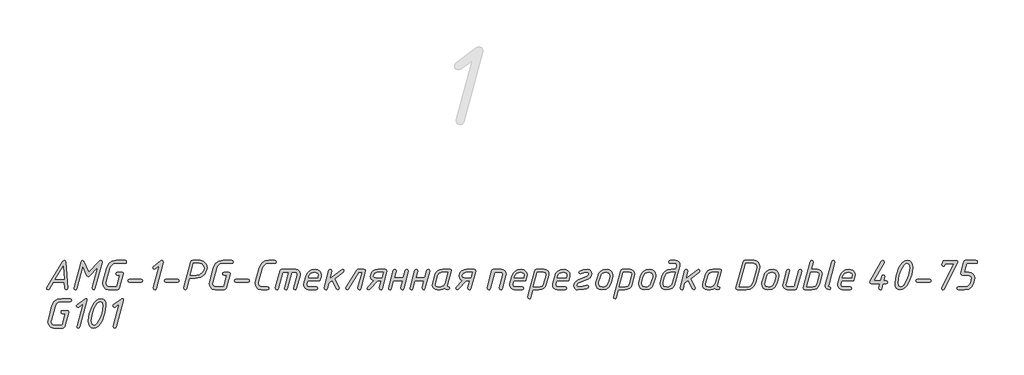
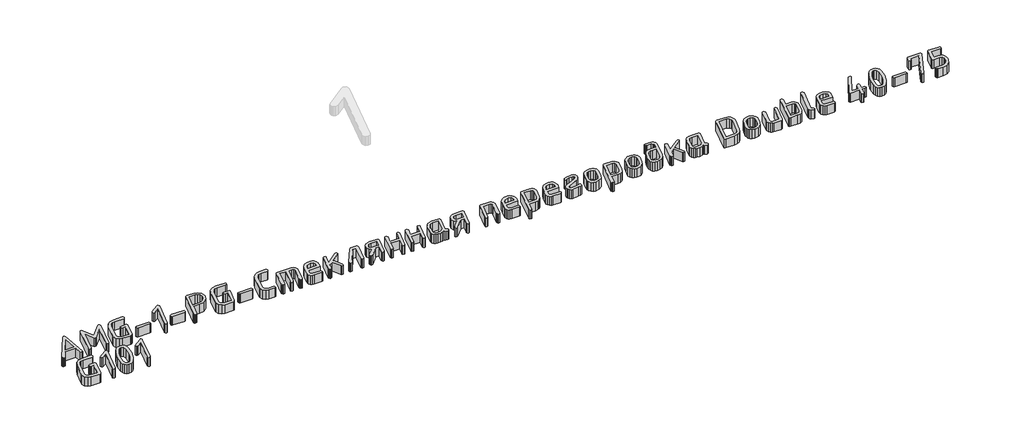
# One storey, part 20 of 22: 1 proxy.
"""IFC4 building model written with IfcOpenShell, lengths in millimetres."""

from ifc_helpers import new_model, si_unit, origin, origin_with_axes, place, context, project, spatial, polyline, outline, extrude, element, save

model = new_model("IFC4")

# Units and contexts
model_context = context("Model", 3, world=origin())
ifc_project = project(units=[si_unit("LENGTHUNIT", "METRE", prefix="MILLI")], contexts=[model_context])

# Site, building, storey
site = spatial("IfcSite", under=ifc_project)
building = spatial("IfcBuilding", under=site)
storey = spatial("IfcBuildingStorey", under=building, Name="Уровень 1", Elevation=0.0)

# Proxy
placement = place(None, origin())
element("IfcBuildingElementProxy", 1, Name="30", ObjectType="30", at=placement, inside=storey, context=model_context, shape_type="SweptSolid", body=[
    extrude(outline(polyline([(-36154.4219264, 304.7886375), (-36210.5539274, 304.7886375), (-36231.3287604, 270.1505985), (-36237.7210168, 266.4350995), (-36243.0345798, 268.6723892), (-36245.1919664, 273.9859523), (-36244.0733215, 277.9811125), (-36161.4534084, 413.7366563), (-36154.9812489, 417.2923489), (-36149.6277342, 415.5544542), (-36147.4703477, 410.3407702), (-36137.0429795, 273.7462427), (-36138.9406806, 268.2628853), (-36144.6337839, 266.4350995), (-36149.9573349, 268.2029579), (-36152.0248303, 273.506533), (-36154.4219264, 304.7886375)]), holes=[polyline([(-36155.5405713, 320.1300527), (-36160.6543764, 386.6095185), (-36201.3251073, 320.1300527), (-36155.5405713, 320.1300527)])]), origin_with_axes(), (0.0, 0.0, 1.0), 50.0),
    extrude(outline(polyline([(-36059.3371135, 386.6494701), (-36089.9000891, 272.0283238), (-36092.4370158, 267.8334055), (-36097.0913775, 266.4350995), (-36102.3649889, 268.6723892), (-36104.6821818, 273.7462427), (-36104.362569, 276.023484), (-36068.0865143, 411.6991246), (-36065.5595755, 415.8940428), (-36060.9351776, 417.2923489), (-36053.9036956, 412.7378663), (-36029.8128796, 355.4472689), (-35973.0816046, 414.8952528), (-35967.7680415, 417.2923489), (-35962.1348656, 415.4345994), (-35960.2571403, 409.8613509), (-35960.49685, 407.7039644), (-35996.732953, 272.0283238), (-35999.3198193, 267.8334055), (-36003.8842898, 266.4350995), (-36009.1778771, 268.6723892), (-36011.5150458, 273.7462427), (-36011.1554814, 276.023484), (-35982.5101827, 383.3334871), (-36027.0961706, 336.8298223), (-36032.4097337, 334.5925326), (-36039.2414576, 339.1070636), (-36059.3371135, 386.6494701)])), origin_with_axes(), (0.0, 0.0, 1.0), 50.0),
    extrude(outline(polyline([(-35842.6795754, 401.9509337), (-35891.3406268, 401.9509337), (-35904.0052846, 399.1643095), (-35914.512556, 390.8044367), (-35920.5452479, 379.4182301), (-35940.7607585, 304.3092182), (-35941.5597906, 298.7159939), (-35936.3860581, 286.4508521), (-35923.5016664, 281.7765147), (-35884.6287576, 281.7765147), (-35868.4883104, 340.5852729), (-35882.2316615, 340.5852729), (-35887.8648374, 342.5029498), (-35889.7425627, 348.2559805), (-35887.8648374, 354.0090112), (-35882.2316615, 355.9266881), (-35856.782491, 355.9266881), (-35852.3478631, 354.5683337), (-35850.8696539, 350.4932702), (-35850.9895087, 348.4557385), (-35871.1251161, 273.9060491), (-35874.6108934, 268.3028369), (-35880.9931618, 266.4350995), (-35927.5767298, 266.4350995), (-35941.7995002, 270.5800782), (-35952.8261424, 283.0150143), (-35957.0210606, 297.8770103), (-35956.2220285, 304.1494118), (-35936.1263727, 379.5780366), (-35926.1784238, 400.3528696), (-35909.5186057, 413.0574791), (-35887.2256117, 417.2923489), (-35842.6795754, 417.2923489), (-35837.0763632, 415.374672), (-35835.2086258, 409.6216413), (-35837.0763632, 403.8686106), (-35842.6795754, 401.9509337)])), origin_with_axes(), (0.0, 0.0, 1.0), 50.0),
    extrude(outline(polyline([(-35758.9809691, 304.7886375), (-35821.0657587, 304.7886375), (-35826.6689709, 306.7063144), (-35828.5367083, 312.4593451), (-35826.6689709, 318.2123758), (-35821.0657587, 320.1300527), (-35758.9809691, 320.1300527), (-35753.3777569, 318.2123758), (-35751.5100195, 312.4593451), (-35753.3777569, 306.7063144), (-35758.9809691, 304.7886375)])), origin_with_axes(), (0.0, 0.0, 1.0), 50.0),
    extrude(outline(polyline([(-35667.0123811, 390.2051627), (-35688.4663914, 373.705151), (-35694.0596157, 372.2269418), (-35699.1134934, 375.0035781), (-35700.5317752, 380.6567298), (-35697.5753567, 385.6506801), (-35658.5026899, 414.7354464), (-35654.068062, 417.2923489), (-35648.4348861, 415.4345994), (-35646.5571608, 409.8613509), (-35646.7968704, 407.7039644), (-35683.0329735, 272.0283238), (-35685.6198398, 267.8334055), (-35690.1843103, 266.4350995), (-35695.4778976, 268.6723892), (-35697.8150663, 273.7462427), (-35697.4555019, 276.023484), (-35667.0123811, 390.2051627)])), origin_with_axes(), (0.0, 0.0, 1.0), 50.0),
    extrude(outline(polyline([(-35572.3270842, 304.7886375), (-35634.4118738, 304.7886375), (-35640.015086, 306.7063144), (-35641.8828234, 312.4593451), (-35640.015086, 318.2123758), (-35634.4118738, 320.1300527), (-35572.3270842, 320.1300527), (-35566.723872, 318.2123758), (-35564.8561346, 312.4593451), (-35566.723872, 306.7063144), (-35572.3270842, 304.7886375)])), origin_with_axes(), (0.0, 0.0, 1.0), 50.0),
    extrude(outline(polyline([(-35481.7168507, 325.2438577), (-35512.7592455, 325.2438577), (-35527.3815318, 271.908469), (-35529.978386, 267.8034418), (-35534.5728202, 266.4350995), (-35539.8464317, 268.6723892), (-35542.1636246, 273.7462427), (-35541.8440118, 276.023484), (-35506.1672311, 409.7414961), (-35502.7114176, 415.4046357), (-35496.2592338, 417.2923489), (-35457.386325, 417.2923489), (-35440.2570756, 412.268435), (-35427.063059, 397.1966931), (-35422.0691088, 378.8189561), (-35422.948044, 371.2681033), (-35434.9834641, 346.6379406), (-35455.3487933, 330.837082), (-35481.7168507, 325.2438577)]), holes=[polyline([(-35477.6417873, 340.5852729), (-35461.1917151, 344.4805541), (-35446.8391021, 356.1663977), (-35439.8575596, 367.2230036), (-35437.5303788, 378.8189561), (-35440.4768094, 390.6346424), (-35449.3161014, 398.914612), (-35461.6211948, 401.9509337), (-35492.623638, 401.9509337), (-35508.7640853, 340.5852729), (-35477.6417873, 340.5852729)])]), origin_with_axes(), (0.0, 0.0, 1.0), 50.0),
    extrude(outline(polyline([(-35295.5024334, 401.9509337), (-35344.1634847, 401.9509337), (-35356.8281426, 399.1643095), (-35367.3354139, 390.8044367), (-35373.3681058, 379.4182301), (-35393.5836165, 304.3092182), (-35394.3826485, 298.7159939), (-35389.2089161, 286.4508521), (-35376.3245244, 281.7765147), (-35337.4516156, 281.7765147), (-35321.3111683, 340.5852729), (-35335.0545194, 340.5852729), (-35340.6876953, 342.5029498), (-35342.5654206, 348.2559805), (-35340.6876953, 354.0090112), (-35335.0545194, 355.9266881), (-35309.6053489, 355.9266881), (-35305.1707211, 354.5683337), (-35303.6925118, 350.4932702), (-35303.8123666, 348.4557385), (-35323.9479741, 273.9060491), (-35327.4337513, 268.3028369), (-35333.8160198, 266.4350995), (-35380.3995878, 266.4350995), (-35394.6223581, 270.5800782), (-35405.6490003, 283.0150143), (-35409.8439185, 297.8770103), (-35409.0448865, 304.1494118), (-35388.9492306, 379.5780366), (-35379.0012817, 400.3528696), (-35362.3414637, 413.0574791), (-35340.0484697, 417.2923489), (-35295.5024334, 417.2923489), (-35289.8992212, 415.374672), (-35288.0314838, 409.6216413), (-35289.8992212, 403.8686106), (-35295.5024334, 401.9509337)])), origin_with_axes(), (0.0, 0.0, 1.0), 50.0),
    extrude(outline(polyline([(-35211.803827, 304.7886375), (-35273.8886167, 304.7886375), (-35279.4918289, 306.7063144), (-35281.3595662, 312.4593451), (-35279.4918289, 318.2123758), (-35273.8886167, 320.1300527), (-35211.803827, 320.1300527), (-35206.2006148, 318.2123758), (-35204.3328774, 312.4593451), (-35206.2006148, 306.7063144), (-35211.803827, 304.7886375)])), origin_with_axes(), (0.0, 0.0, 1.0), 50.0),
    extrude(outline(polyline([(-35047.2831297, 365.5949758), (-35044.7262271, 369.8498214), (-35040.0119381, 371.2681033), (-34968.0591028, 371.2681033), (-34955.8339125, 368.2617453), (-34947.3641729, 359.2426711), (-34944.3278511, 347.3370937), (-34945.1268832, 341.3044018), (-34963.7443297, 271.9883722), (-34966.331196, 267.8234176), (-34970.8956665, 266.4350995), (-34976.1892538, 268.6324376), (-34978.5264225, 273.6663394), (-34978.1668581, 275.9435808), (-34960.6680564, 341.0247405), (-34959.8690243, 346.5380616), (-34962.915334, 353.5795315), (-34972.054263, 355.9266881), (-34987.5954362, 355.9266881), (-35010.3278978, 271.9883722), (-35012.914764, 267.8234176), (-35017.4792345, 266.4350995), (-35022.7728218, 268.6324376), (-35025.1099905, 273.6663394), (-35024.7903777, 275.9435808), (-35003.0567062, 355.9266881), (-35034.2189558, 355.9266881), (-35056.9114658, 271.9883722), (-35059.5083199, 267.8234176), (-35064.1027542, 266.4350995), (-35069.3763656, 268.6524134), (-35071.6935585, 273.706291), (-35071.3739457, 275.9835324), (-35047.2831297, 365.5949758)])), origin_with_axes(), (0.0, 0.0, 1.0), 50.0),
    extrude(outline(polyline([(-35112.004725, 281.7765147), (-35106.3715492, 279.8588378), (-35104.4938239, 274.1058071), (-35106.3715492, 268.3527764), (-35112.004725, 266.4350995), (-35145.0447, 266.4350995), (-35159.397313, 270.6100419), (-35170.4139673, 283.1348691), (-35174.4890307, 298.0767683), (-35173.6899987, 304.1494118), (-35153.7141976, 379.5780366), (-35146.8924616, 396.0780482), (-35136.4551055, 407.8637708), (-35122.4021295, 414.9352044), (-35104.7335335, 417.2923489), (-35075.8485252, 417.2923489), (-35070.2153493, 415.374672), (-35068.337624, 409.6216413), (-35070.2153493, 403.8686106), (-35075.8485252, 401.9509337), (-35108.8085969, 401.9509337), (-35121.3533999, 399.1643095), (-35131.9805261, 390.8044367), (-35138.1330728, 379.4182301), (-35158.2287286, 304.3092182), (-35159.0277607, 298.7159939), (-35153.8540282, 286.4508521), (-35140.9696366, 281.7765147), (-35112.004725, 281.7765147)])), origin_with_axes(), (0.0, 0.0, 1.0), 50.0),
    extrude(outline(polyline([(-34837.5372188, 334.5126294), (-34843.5699107, 312.4593451), (-34905.6147487, 312.4593451), (-34909.6099089, 297.1179299), (-34910.408941, 291.5247056), (-34907.3626313, 284.2135624), (-34898.2237023, 281.7765147), (-34861.4282768, 281.7765147), (-34855.7951009, 279.8588378), (-34853.9173756, 274.1058071), (-34855.7951009, 268.3527764), (-34861.4282768, 266.4350995), (-34902.2188625, 266.4350995), (-34911.2778883, 268.19297), (-34918.9585838, 273.4665814), (-34924.2022316, 281.1772406), (-34925.9501142, 290.2462543), (-34925.1510821, 296.398801), (-34915.1631816, 333.8334522), (-34908.3064879, 351.0725685), (-34898.4434361, 362.5986057), (-34884.6950911, 369.1007289), (-34866.1825175, 371.2681033), (-34854.6614742, 369.195614), (-34845.1080474, 362.9781459), (-34838.6808334, 353.7243561), (-34836.5384287, 342.5429014), (-34837.5372188, 334.5126294)]), holes=[polyline([(-34853.1183436, 334.8322422), (-34851.8798439, 342.6228046), (-34856.4742782, 352.6007173), (-34870.2575809, 355.9266881), (-34889.1946403, 350.6530766), (-34895.4570539, 344.0610623), (-34899.5820568, 334.8322422), (-34901.6595401, 327.8007603), (-34855.0360205, 327.8007603), (-34853.1183436, 334.8322422)])]), origin_with_axes(), (0.0, 0.0, 1.0), 50.0),
    extrude(outline(polyline([(-34778.9681701, 314.7365864), (-34799.063826, 299.2753164), (-34806.3350176, 271.9883722), (-34808.8719443, 267.8234176), (-34813.5263059, 266.4350995), (-34818.7999174, 268.6524134), (-34821.1171103, 273.706291), (-34820.7974975, 275.9835324), (-34796.7066815, 365.7148306), (-34794.1797426, 369.8797851), (-34789.5553447, 371.2681033), (-34783.9221688, 369.4203417), (-34782.0444435, 363.8770569), (-34782.2442015, 361.7196704), (-34792.5916664, 323.0465196), (-34731.9051829, 368.7112008), (-34727.3906519, 371.2681033), (-34722.1370162, 368.990862), (-34719.7598959, 363.8770569), (-34722.8361692, 357.7644618), (-34766.8228831, 324.0852613), (-34744.6497439, 277.222032), (-34743.8507119, 274.0259039), (-34746.1279532, 268.7123408), (-34751.4814679, 266.4350995), (-34758.1533854, 270.7498725), (-34778.9681701, 314.7365864)])), origin_with_axes(), (0.0, 0.0, 1.0), 50.0),
    extrude(outline(polyline([(-34617.2041333, 371.2681033), (-34611.5709574, 369.4203417), (-34609.6932321, 363.8770569), (-34609.9329417, 361.7196704), (-34634.1436126, 271.9883722), (-34636.7304788, 267.8234176), (-34641.2949494, 266.4350995), (-34646.5885367, 268.6324376), (-34648.9257054, 273.6663394), (-34648.566141, 275.9435808), (-34626.9922758, 355.9266881), (-34644.0116583, 355.9266881), (-34697.1073375, 269.9508405), (-34702.980223, 266.4350995), (-34708.9130359, 268.2229337), (-34710.9705434, 273.5864362), (-34709.8119469, 277.7813545), (-34654.7186877, 367.6325075), (-34648.2065765, 371.2681033), (-34617.2041333, 371.2681033)])), origin_with_axes(), (0.0, 0.0, 1.0), 50.0),
    extrude(outline(polyline([(-34547.3687329, 312.4593451), (-34588.2791734, 268.7522924), (-34593.6326881, 266.4350995), (-34599.2259124, 268.292849), (-34601.2234925, 273.8660975), (-34599.066106, 279.4593217), (-34567.2646307, 313.4980867), (-34579.4698452, 321.9678264), (-34584.0842552, 335.8709839), (-34583.405078, 341.8637242), (-34577.8617932, 355.5022024), (-34570.1011945, 364.5362584), (-34559.2143829, 369.5851421), (-34544.2924595, 371.2681033), (-34507.497034, 371.2681033), (-34502.2034467, 369.1107168), (-34499.866278, 363.9969117), (-34500.2258424, 361.7196704), (-34524.3965617, 271.9883722), (-34526.9934158, 267.8234176), (-34531.5878501, 266.4350995), (-34537.1910623, 268.3228127), (-34539.0587997, 273.9859523), (-34538.8590416, 276.1832904), (-34529.3106088, 312.4593451), (-34547.3687329, 312.4593451)]), holes=[polyline([(-34556.3578434, 327.8007603), (-34525.3154485, 327.8007603), (-34517.1253701, 355.9266881), (-34548.2876197, 355.9266881), (-34560.7824833, 352.4109471), (-34568.0636628, 341.8637242), (-34568.74284, 336.7499191), (-34565.6465908, 330.03805), (-34556.3578434, 327.8007603)])]), origin_with_axes(), (0.0, 0.0, 1.0), 50.0),
    extrude(outline(polyline([(-34419.3637998, 312.4593451), (-34465.9473679, 312.4593451), (-34476.4945908, 272.1481786), (-34479.0614812, 267.8633692), (-34483.805734, 266.4350995), (-34489.0593697, 268.6524134), (-34491.3965384, 273.706291), (-34491.0769256, 275.9835324), (-34466.9861095, 365.7148306), (-34464.4491828, 369.8797851), (-34459.7948211, 371.2681033), (-34454.4812581, 369.19062), (-34452.2040167, 364.1167665), (-34452.4037748, 362.0392832), (-34461.9522077, 327.8007603), (-34415.2487848, 327.8007603), (-34404.7015619, 365.874637), (-34402.174623, 369.9197368), (-34397.5502251, 371.2681033), (-34391.9170492, 369.4203417), (-34390.0393239, 363.8770569), (-34390.2790335, 361.7196704), (-34414.3698496, 271.9883722), (-34416.8967884, 267.8234176), (-34421.5211863, 266.4350995), (-34426.7947978, 268.692365), (-34429.1119907, 273.8660975), (-34428.7923779, 276.1832904), (-34419.3637998, 312.4593451)])), origin_with_axes(), (0.0, 0.0, 1.0), 50.0),
    extrude(outline(polyline([(-34309.4169909, 312.4593451), (-34356.0005589, 312.4593451), (-34366.5477819, 272.1481786), (-34369.1146723, 267.8633692), (-34373.8589251, 266.4350995), (-34379.1125607, 268.6524134), (-34381.4497295, 273.706291), (-34381.1301167, 275.9835324), (-34357.0393006, 365.7148306), (-34354.5023739, 369.8797851), (-34349.8480122, 371.2681033), (-34344.5344491, 369.19062), (-34342.2572078, 364.1167665), (-34342.4569658, 362.0392832), (-34352.0053987, 327.8007603), (-34305.3019759, 327.8007603), (-34294.754753, 365.874637), (-34292.2278141, 369.9197368), (-34287.6034162, 371.2681033), (-34281.9702403, 369.4203417), (-34280.092515, 363.8770569), (-34280.3322246, 361.7196704), (-34304.4230407, 271.9883722), (-34306.9499795, 267.8234176), (-34311.5743774, 266.4350995), (-34316.8479889, 268.692365), (-34319.1651818, 273.8660975), (-34318.845569, 276.1832904), (-34309.4169909, 312.4593451)])), origin_with_axes(), (0.0, 0.0, 1.0), 50.0),
    extrude(outline(polyline([(-34242.538009, 266.4350995), (-34251.5970348, 268.1630063), (-34259.2777303, 273.3467266), (-34264.5213781, 280.9774826), (-34266.2692607, 290.0464963), (-34265.4702286, 296.398801), (-34253.4447964, 341.3044018), (-34247.8815358, 355.2075593), (-34239.8213001, 364.476331), (-34228.9544643, 369.5701602), (-34214.332178, 371.2681033), (-34175.4992208, 371.2681033), (-34170.6051495, 369.1306926), (-34169.6662869, 363.7971537), (-34189.9217491, 289.2474643), (-34190.2413619, 287.2099326), (-34188.7431768, 283.1348691), (-34184.2486216, 281.7765147), (-34179.0449254, 279.8588378), (-34178.4556393, 274.1058071), (-34181.7915981, 268.3527764), (-34188.2038302, 266.4350995), (-34198.261646, 268.6124618), (-34203.6651002, 275.1445487), (-34212.8140171, 268.6124618), (-34227.076739, 266.4350995), (-34242.538009, 266.4350995)]), holes=[polyline([(-34238.5428488, 281.7765147), (-34223.0016756, 281.7765147), (-34210.9962192, 286.3309973), (-34203.3055358, 296.598559), (-34187.2849434, 355.9266881), (-34218.3273382, 355.9266881), (-34231.0718992, 352.221177), (-34237.9835264, 341.1046438), (-34249.9290554, 296.598559), (-34250.7280875, 291.3249476), (-34247.6817778, 284.1636229), (-34238.5428488, 281.7765147)])]), origin_with_axes(), (0.0, 0.0, 1.0), 50.0),
    extrude(outline(polyline([(-34092.240082, 312.4593451), (-34133.1505226, 268.7522924), (-34138.5040372, 266.4350995), (-34144.0972615, 268.292849), (-34146.0948416, 273.8660975), (-34143.9374551, 279.4593217), (-34112.1359799, 313.4980867), (-34124.3411943, 321.9678264), (-34128.9556043, 335.8709839), (-34128.2764271, 341.8637242), (-34122.7331423, 355.5022024), (-34114.9725436, 364.5362584), (-34104.085732, 369.5851421), (-34089.1638087, 371.2681033), (-34052.3683832, 371.2681033), (-34047.0747959, 369.1107168), (-34044.7376272, 363.9969117), (-34045.0971916, 361.7196704), (-34069.2679108, 271.9883722), (-34071.864765, 267.8234176), (-34076.4591992, 266.4350995), (-34082.0624114, 268.3228127), (-34083.9301488, 273.9859523), (-34083.7303908, 276.1832904), (-34074.1819579, 312.4593451), (-34092.240082, 312.4593451)]), holes=[polyline([(-34101.2291925, 327.8007603), (-34070.1867977, 327.8007603), (-34061.9967193, 355.9266881), (-34093.1589689, 355.9266881), (-34105.6538324, 352.4109471), (-34112.9350119, 341.8637242), (-34113.6141891, 336.7499191), (-34110.51794, 330.03805), (-34101.2291925, 327.8007603)])]), origin_with_axes(), (0.0, 0.0, 1.0), 50.0),
    extrude(outline(polyline([(-33960.5995532, 365.5949758), (-33958.0426507, 369.8498214), (-33953.3283616, 371.2681033), (-33912.4179211, 371.2681033), (-33903.0542643, 369.5801481), (-33895.4185144, 364.5162826), (-33890.339667, 356.8755387), (-33888.6467178, 347.4569485), (-33889.4457499, 341.3044018), (-33908.1031481, 271.9883722), (-33910.6700385, 267.8234176), (-33915.2544848, 266.4350995), (-33920.5280963, 268.6324376), (-33922.8452892, 273.6663394), (-33922.5256764, 275.9435808), (-33905.0268747, 341.0247405), (-33904.2278427, 346.4182068), (-33907.2641644, 353.5495678), (-33916.3731297, 355.9266881), (-33947.5353793, 355.9266881), (-33970.2278893, 271.9883722), (-33972.8247434, 267.8234176), (-33977.4191777, 266.4350995), (-33982.6927891, 268.6524134), (-33985.0099821, 273.706291), (-33984.6903692, 275.9835324), (-33960.5995532, 365.5949758)])), origin_with_axes(), (0.0, 0.0, 1.0), 50.0),
    extrude(outline(polyline([(-33781.5364727, 334.5126294), (-33787.5691646, 312.4593451), (-33849.6140026, 312.4593451), (-33853.6091628, 297.1179299), (-33854.4081949, 291.5247056), (-33851.3618852, 284.2135624), (-33842.2229562, 281.7765147), (-33805.4275307, 281.7765147), (-33799.7943548, 279.8588378), (-33797.9166295, 274.1058071), (-33799.7943548, 268.3527764), (-33805.4275307, 266.4350995), (-33846.2181164, 266.4350995), (-33855.2771422, 268.19297), (-33862.9578377, 273.4665814), (-33868.2014855, 281.1772406), (-33869.9493681, 290.2462543), (-33869.150336, 296.398801), (-33859.1624355, 333.8334522), (-33852.3057418, 351.0725685), (-33842.44269, 362.5986057), (-33828.694345, 369.1007289), (-33810.1817714, 371.2681033), (-33798.6607281, 369.195614), (-33789.1073013, 362.9781459), (-33782.6800873, 353.7243561), (-33780.5376826, 342.5429014), (-33781.5364727, 334.5126294)]), holes=[polyline([(-33797.1175975, 334.8322422), (-33795.8790978, 342.6228046), (-33800.4735321, 352.6007173), (-33814.2568348, 355.9266881), (-33833.1938942, 350.6530766), (-33839.4563078, 344.0610623), (-33843.5813107, 334.8322422), (-33845.658794, 327.8007603), (-33799.0352744, 327.8007603), (-33797.1175975, 334.8322422)])]), origin_with_axes(), (0.0, 0.0, 1.0), 50.0),
    extrude(outline(polyline([(-33740.7059354, 365.5550242), (-33738.1490328, 369.8398335), (-33733.4347438, 371.2681033), (-33692.5243033, 371.2681033), (-33683.3604045, 369.5252147), (-33675.684703, 364.2965488), (-33670.4860008, 356.6008714), (-33668.7531, 347.4569485), (-33669.5521321, 341.3044018), (-33681.6175159, 296.398801), (-33687.1657946, 282.5655588), (-33695.1810848, 273.3467266), (-33706.2127209, 268.1630063), (-33720.8100375, 266.4350995), (-33751.8124807, 266.4350995), (-33762.3996553, 226.123933), (-33764.9265941, 221.8391237), (-33769.5509921, 220.4108539), (-33774.8445793, 222.6481436), (-33777.1817481, 227.7219971), (-33776.8221836, 229.9992384), (-33740.7059354, 365.5550242)]), holes=[polyline([(-33727.6417615, 355.9266881), (-33747.8572721, 281.7765147), (-33716.7349741, 281.7765147), (-33703.9604493, 285.4820258), (-33697.0388343, 296.598559), (-33685.1332569, 341.1046438), (-33684.3342248, 346.49811), (-33687.3705466, 353.5695436), (-33696.4795119, 355.9266881), (-33727.6417615, 355.9266881)])]), origin_with_axes(), (0.0, 0.0, 1.0), 50.0),
    extrude(outline(polyline([(-33561.6428548, 334.5126294), (-33567.6755468, 312.4593451), (-33629.7203848, 312.4593451), (-33633.715545, 297.1179299), (-33634.514577, 291.5247056), (-33631.4682674, 284.2135624), (-33622.3293384, 281.7765147), (-33585.5339129, 281.7765147), (-33579.900737, 279.8588378), (-33578.0230117, 274.1058071), (-33579.900737, 268.3527764), (-33585.5339129, 266.4350995), (-33626.3244986, 266.4350995), (-33635.3835244, 268.19297), (-33643.0642199, 273.4665814), (-33648.3078677, 281.1772406), (-33650.0557502, 290.2462543), (-33649.2567182, 296.398801), (-33639.2688177, 333.8334522), (-33632.412124, 351.0725685), (-33622.5490722, 362.5986057), (-33608.8007272, 369.1007289), (-33590.2881535, 371.2681033), (-33578.7671103, 369.195614), (-33569.2136834, 362.9781459), (-33562.7864695, 353.7243561), (-33560.6440648, 342.5429014), (-33561.6428548, 334.5126294)]), holes=[polyline([(-33577.2239797, 334.8322422), (-33575.98548, 342.6228046), (-33580.5799142, 352.6007173), (-33594.363217, 355.9266881), (-33613.3002763, 350.6530766), (-33619.56269, 344.0610623), (-33623.6876929, 334.8322422), (-33625.7651762, 327.8007603), (-33579.1416566, 327.8007603), (-33577.2239797, 334.8322422)])]), origin_with_axes(), (0.0, 0.0, 1.0), 50.0),
    extrude(outline(polyline([(-33489.0907455, 269.3515664), (-33520.2130435, 266.4350995), (-33528.1434365, 268.0331636), (-33534.8353299, 272.8273558), (-33539.3898125, 279.738983), (-33540.9079734, 287.6893518), (-33539.2100303, 296.8482566), (-33534.116201, 305.6276211), (-33518.5350762, 317.2934889), (-33473.1900079, 335.0320002), (-33465.9387921, 340.2257085), (-33463.5217201, 348.3758353), (-33465.8289252, 354.0389749), (-33472.7505402, 355.9266881), (-33490.6588459, 354.3086482), (-33504.1924511, 349.4545286), (-33507.8280469, 348.4157869), (-33513.1216341, 350.6930283), (-33515.338948, 355.9266881), (-33511.5834974, 362.5586541), (-33493.5453491, 369.090741), (-33468.75538, 371.2681033), (-33458.6476247, 368.5014549), (-33451.0168687, 360.2015095), (-33448.0604501, 349.6942382), (-33450.5074858, 339.176979), (-33457.8485927, 328.8794535), (-33470.2335893, 320.6494235), (-33515.5786577, 303.030767), (-33522.8898008, 297.7471676), (-33525.3268486, 289.5670771), (-33523.0595951, 283.7241553), (-33516.2578349, 281.7765147), (-33494.663994, 283.5144094), (-33475.1076848, 288.7280934), (-33472.3909758, 289.2874159), (-33466.7577999, 287.4096906), (-33464.8800746, 281.7765147), (-33467.3271102, 276.522879), (-33474.6682171, 272.5876462), (-33489.0907455, 269.3515664)])), origin_with_axes(), (0.0, 0.0, 1.0), 50.0),
    extrude(outline(polyline([(-33427.3255687, 303.8697506), (-33419.3751999, 333.8334522), (-33412.5185061, 351.0725685), (-33402.6554544, 362.5986057), (-33388.9071093, 369.1007289), (-33370.3945357, 371.2681033), (-33358.8734925, 369.1556624), (-33349.3200656, 362.8183395), (-33342.8928516, 353.3847674), (-33340.750447, 341.983579), (-33341.749237, 333.8334522), (-33349.6996058, 303.8697506), (-33359.6076031, 282.3358371), (-33375.2286796, 270.4102839), (-33398.68027, 266.4350995), (-33410.2063072, 268.5475404), (-33419.7747159, 274.8848633), (-33426.2169117, 284.3184354), (-33428.3643103, 295.7196238), (-33427.3255687, 303.8697506)]), holes=[polyline([(-33365.2807306, 304.029557), (-33357.3303618, 333.6736458), (-33356.0918622, 341.983579), (-33360.6862964, 352.4409108), (-33374.4695991, 355.9266881), (-33385.0517797, 354.535873), (-33393.4665859, 350.3634275), (-33399.7140177, 343.4093518), (-33403.794075, 333.6736458), (-33411.8642987, 304.029557), (-33413.1427499, 295.7196238), (-33408.5383278, 285.262292), (-33394.7250614, 281.7765147), (-33384.1054261, 283.1673298), (-33375.6581593, 287.3397753), (-33369.3832608, 294.293851), (-33365.2807306, 304.029557)])]), origin_with_axes(), (0.0, 0.0, 1.0), 50.0),
    extrude(outline(polyline([(-33300.9186997, 365.5550242), (-33298.3617972, 369.8398335), (-33293.6475081, 371.2681033), (-33252.7370676, 371.2681033), (-33243.5731689, 369.5252147), (-33235.8974673, 364.2965488), (-33230.6987651, 356.6008714), (-33228.9658644, 347.4569485), (-33229.7648964, 341.3044018), (-33241.8302802, 296.398801), (-33247.378559, 282.5655588), (-33255.3938491, 273.3467266), (-33266.4254853, 268.1630063), (-33281.0228019, 266.4350995), (-33312.0252451, 266.4350995), (-33322.6124196, 226.123933), (-33325.1393585, 221.8391237), (-33329.7637564, 220.4108539), (-33335.0573437, 222.6481436), (-33337.3945124, 227.7219971), (-33337.034948, 229.9992384), (-33300.9186997, 365.5550242)]), holes=[polyline([(-33287.8545258, 355.9266881), (-33308.0700365, 281.7765147), (-33276.9477384, 281.7765147), (-33264.1732137, 285.4820258), (-33257.2515986, 296.598559), (-33245.3460212, 341.1046438), (-33244.5469892, 346.49811), (-33247.5833109, 353.5695436), (-33256.6922762, 355.9266881), (-33287.8545258, 355.9266881)])]), origin_with_axes(), (0.0, 0.0, 1.0), 50.0),
    extrude(outline(polyline([(-33207.4319508, 303.8697506), (-33199.481582, 333.8334522), (-33192.6248883, 351.0725685), (-33182.7618366, 362.5986057), (-33169.0134915, 369.1007289), (-33150.5009179, 371.2681033), (-33138.9798746, 369.1556624), (-33129.4264478, 362.8183395), (-33122.9992338, 353.3847674), (-33120.8568291, 341.983579), (-33121.8556192, 333.8334522), (-33129.805988, 303.8697506), (-33139.7139853, 282.3358371), (-33155.3350617, 270.4102839), (-33178.7866521, 266.4350995), (-33190.3126893, 268.5475404), (-33199.881098, 274.8848633), (-33206.3232939, 284.3184354), (-33208.4706925, 295.7196238), (-33207.4319508, 303.8697506)]), holes=[polyline([(-33145.3871128, 304.029557), (-33137.436744, 333.6736458), (-33136.1982443, 341.983579), (-33140.7926786, 352.4409108), (-33154.5759813, 355.9266881), (-33165.1581619, 354.535873), (-33173.5729681, 350.3634275), (-33179.8203999, 343.4093518), (-33183.9004572, 333.6736458), (-33191.9706808, 304.029557), (-33193.2491321, 295.7196238), (-33188.64471, 285.262292), (-33174.8314435, 281.7765147), (-33164.2118083, 283.1673298), (-33155.7645414, 287.3397753), (-33149.4896429, 294.293851), (-33145.3871128, 304.029557)])]), origin_with_axes(), (0.0, 0.0, 1.0), 50.0),
    extrude(outline(polyline([(-32997.8458463, 387.1288893), (-33019.8591791, 304.1494118), (-33026.8457155, 286.7255194), (-33036.8585858, 275.1245729), (-33050.6169187, 268.6074678), (-33068.8398432, 266.4350995), (-33080.3658804, 268.5475404), (-33089.9342891, 274.8848633), (-33096.376485, 284.3184354), (-33098.5238836, 295.7196238), (-33097.4851419, 303.8697506), (-33089.5347731, 333.8334522), (-33082.6780794, 351.0725685), (-33072.8150276, 362.5986057), (-33059.0666826, 369.1007289), (-33040.554109, 371.2681033), (-33017.2623249, 371.2681033), (-33013.2671647, 386.6095185), (-33012.5080843, 392.2027428), (-33015.5743698, 399.513886), (-33024.7732261, 401.9509337), (-33046.0274784, 401.9509337), (-33051.6306906, 403.8686106), (-33053.498428, 409.6216413), (-33051.6306906, 415.374672), (-33046.0274784, 417.2923489), (-33020.7780659, 417.2923489), (-33011.6441309, 415.5344784), (-33003.9784173, 410.2608669), (-32998.779715, 402.5002682), (-32997.0468143, 393.2814361), (-32997.8458463, 387.1288893)]), holes=[polyline([(-33035.4403039, 304.029557), (-33021.3373884, 355.9266881), (-33044.6291724, 355.9266881), (-33055.211353, 354.535873), (-33063.6261592, 350.3634275), (-33069.8735909, 343.4093518), (-33073.9536483, 333.6736458), (-33082.0238719, 304.029557), (-33083.3023232, 295.7196238), (-33078.697901, 285.262292), (-33064.8846346, 281.7765147), (-33054.2649994, 283.1673298), (-33045.8177325, 287.3397753), (-33039.542834, 294.293851), (-33035.4403039, 304.029557)])]), origin_with_axes(), (0.0, 0.0, 1.0), 50.0),
    extrude(outline(polyline([(-32953.3397616, 314.7365864), (-32973.4354175, 299.2753164), (-32980.706609, 271.9883722), (-32983.2435358, 267.8234176), (-32987.8978974, 266.4350995), (-32993.1715089, 268.6524134), (-32995.4887018, 273.706291), (-32995.169089, 275.9835324), (-32971.0782729, 365.7148306), (-32968.5513341, 369.8797851), (-32963.9269362, 371.2681033), (-32958.2937603, 369.4203417), (-32956.416035, 363.8770569), (-32956.615793, 361.7196704), (-32966.9632579, 323.0465196), (-32906.2767744, 368.7112008), (-32901.7622433, 371.2681033), (-32896.5086077, 368.990862), (-32894.1314873, 363.8770569), (-32897.2077607, 357.7644618), (-32941.1944746, 324.0852613), (-32919.0213354, 277.222032), (-32918.2223034, 274.0259039), (-32920.4995447, 268.7123408), (-32925.8530594, 266.4350995), (-32932.5249769, 270.7498725), (-32953.3397616, 314.7365864)])), origin_with_axes(), (0.0, 0.0, 1.0), 50.0),
    extrude(outline(polyline([(-32856.6968362, 266.4350995), (-32865.755862, 268.1630063), (-32873.4365575, 273.3467266), (-32878.6802052, 280.9774826), (-32880.4280878, 290.0464963), (-32879.6290558, 296.398801), (-32867.6036236, 341.3044018), (-32862.040363, 355.2075593), (-32853.9801273, 364.476331), (-32843.1132915, 369.5701602), (-32828.4910051, 371.2681033), (-32789.6580479, 371.2681033), (-32784.7639767, 369.1306926), (-32783.825114, 363.7971537), (-32804.0805763, 289.2474643), (-32804.4001891, 287.2099326), (-32802.902004, 283.1348691), (-32798.4074488, 281.7765147), (-32793.2037526, 279.8588378), (-32792.6144665, 274.1058071), (-32795.9504252, 268.3527764), (-32802.3626574, 266.4350995), (-32812.4204732, 268.6124618), (-32817.8239274, 275.1445487), (-32826.9728443, 268.6124618), (-32841.2355662, 266.4350995), (-32856.6968362, 266.4350995)]), holes=[polyline([(-32852.701676, 281.7765147), (-32837.1605028, 281.7765147), (-32825.1550464, 286.3309973), (-32817.464363, 296.598559), (-32801.4437705, 355.9266881), (-32832.4861653, 355.9266881), (-32845.2307264, 352.221177), (-32852.1423536, 341.1046438), (-32864.0878826, 296.598559), (-32864.8869146, 291.3249476), (-32861.840605, 284.1636229), (-32852.701676, 281.7765147)])]), origin_with_axes(), (0.0, 0.0, 1.0), 50.0),
    extrude(outline(polyline([(-32673.1192247, 409.7414961), (-32669.6634111, 415.4046357), (-32663.2112273, 417.2923489), (-32616.6276593, 417.2923489), (-32605.615999, 414.8053617), (-32595.9926568, 407.3444), (-32589.2957696, 396.9170319), (-32587.0634738, 385.5308253), (-32587.8625058, 379.5780366), (-32607.9981133, 304.1494118), (-32614.849813, 287.6494002), (-32625.297157, 275.8636776), (-32639.3401451, 268.792244), (-32656.9787774, 266.4350995), (-32703.5623454, 266.4350995), (-32708.5562957, 268.6723892), (-32709.3553277, 273.9859523), (-32673.1192247, 409.7414961)]), holes=[polyline([(-32659.5756316, 401.9509337), (-32691.7366712, 281.7765147), (-32652.9836172, 281.7765147), (-32643.5899968, 283.4145304), (-32634.7457109, 288.3285774), (-32627.6592954, 295.599769), (-32623.5392865, 304.3092182), (-32603.4436306, 379.4182301), (-32602.6445986, 385.0114544), (-32607.8183311, 397.2765963), (-32620.7027227, 401.9509337), (-32659.5756316, 401.9509337)])]), origin_with_axes(), (0.0, 0.0, 1.0), 50.0),
    extrude(outline(polyline([(-32575.8770252, 303.8697506), (-32567.9266564, 333.8334522), (-32561.0699627, 351.0725685), (-32551.2069109, 362.5986057), (-32537.4585659, 369.1007289), (-32518.9459922, 371.2681033), (-32502.0964041, 366.783536), (-32491.5791448, 353.329834), (-32489.3019035, 341.983579), (-32490.3006936, 333.8334522), (-32498.2510624, 303.8697506), (-32508.1590597, 282.2858976), (-32523.7401845, 270.1905501), (-32547.2317265, 266.4350995), (-32558.7577637, 268.5475404), (-32568.3261724, 274.8848633), (-32574.7683682, 284.3184354), (-32576.9157669, 295.7196238), (-32575.8770252, 303.8697506)]), holes=[polyline([(-32513.8321872, 304.029557), (-32505.8818184, 333.6736458), (-32504.6433187, 341.983579), (-32509.2377529, 352.4409108), (-32523.0210557, 355.9266881), (-32533.6032363, 354.535873), (-32542.0180424, 350.3634275), (-32548.2654742, 343.4093518), (-32552.3455316, 333.6736458), (-32560.4157552, 304.029557), (-32561.6942065, 295.7196238), (-32557.0897843, 285.262292), (-32543.2765179, 281.7765147), (-32532.6568827, 283.1673298), (-32524.2096158, 287.3397753), (-32517.9347173, 294.293851), (-32513.8321872, 304.029557)])]), origin_with_axes(), (0.0, 0.0, 1.0), 50.0),
    extrude(outline(polyline([(-32387.3054634, 365.7148306), (-32384.7785246, 369.8797851), (-32380.1541266, 371.2681033), (-32374.5209507, 369.4203417), (-32372.6432254, 363.8770569), (-32372.8829351, 361.7196704), (-32396.6141867, 273.9060491), (-32400.0799882, 268.3028369), (-32406.4023292, 266.4350995), (-32445.1553832, 266.4350995), (-32454.214409, 268.19297), (-32461.8951045, 273.4665814), (-32467.1387523, 281.1772406), (-32468.8866348, 290.2462543), (-32468.0876028, 296.398801), (-32449.590011, 365.7148306), (-32447.0331085, 369.8797851), (-32442.3188195, 371.2681033), (-32436.6856436, 369.4303296), (-32434.8079183, 363.9170085), (-32435.0076763, 361.759622), (-32452.5464296, 296.6784622), (-32453.30551, 291.284996), (-32450.2691883, 284.153635), (-32441.160223, 281.7765147), (-32410.037925, 281.7765147), (-32387.3054634, 365.7148306)])), origin_with_axes(), (0.0, 0.0, 1.0), 50.0),
    extrude(outline(polyline([(-32356.3429718, 266.4350995), (-32361.5966075, 268.7123408), (-32363.8139214, 273.9859523), (-32363.6141634, 275.9036292), (-32327.3381087, 411.6991246), (-32324.8111699, 415.8940428), (-32320.1867719, 417.2923489), (-32314.553596, 415.4046357), (-32312.6758707, 409.7414961), (-32312.9155803, 407.544158), (-32322.3441584, 371.2681033), (-32291.3417152, 371.2681033), (-32282.1778165, 369.5252147), (-32274.5021149, 364.2965488), (-32269.3034127, 356.6008714), (-32267.570512, 347.4569485), (-32268.369544, 341.3044018), (-32280.514831, 296.398801), (-32286.0880795, 282.4407101), (-32293.9385693, 273.2468476), (-32304.8253809, 268.1380365), (-32319.5075947, 266.4350995), (-32356.3429718, 266.4350995)]), holes=[polyline([(-32295.2969238, 355.9266881), (-32326.4591734, 355.9266881), (-32346.5548293, 281.7765147), (-32315.4325313, 281.7765147), (-32302.807825, 285.4820258), (-32295.8562462, 296.598559), (-32283.830814, 341.1046438), (-32283.031782, 346.49811), (-32286.0980674, 353.5695436), (-32295.2969238, 355.9266881)])]), origin_with_axes(), (0.0, 0.0, 1.0), 50.0),
    extrude(outline(polyline([(-32230.9348929, 281.5368051), (-32225.301717, 279.6490919), (-32223.4239917, 273.9859523), (-32225.301717, 268.3228127), (-32230.9348929, 266.4350995), (-32244.9579052, 271.6288077), (-32249.4224967, 277.4417658), (-32250.9106939, 284.4932236), (-32250.2315167, 289.0477062), (-32217.5111546, 411.6991246), (-32214.954252, 415.8940428), (-32210.239963, 417.2923489), (-32204.6067871, 415.4345994), (-32202.7290618, 409.8613509), (-32202.9687714, 407.7039644), (-32234.6903435, 289.0477062), (-32235.2496659, 285.6518201), (-32230.9348929, 281.5368051)])), origin_with_axes(), (0.0, 0.0, 1.0), 50.0),
    extrude(outline(polyline([(-32099.094606, 334.5126294), (-32105.1272979, 312.4593451), (-32167.172136, 312.4593451), (-32171.1672962, 297.1179299), (-32171.9663282, 291.5247056), (-32168.9200185, 284.2135624), (-32159.7810896, 281.7765147), (-32122.9856641, 281.7765147), (-32117.3524882, 279.8588378), (-32115.4747629, 274.1058071), (-32117.3524882, 268.3527764), (-32122.9856641, 266.4350995), (-32163.7762498, 266.4350995), (-32172.8352756, 268.19297), (-32180.5159711, 273.4665814), (-32185.7596188, 281.1772406), (-32187.5075014, 290.2462543), (-32186.7084694, 296.398801), (-32176.7205689, 333.8334522), (-32169.8638751, 351.122508), (-32160.0008234, 362.6385573), (-32146.2524783, 369.1107168), (-32127.7399047, 371.2681033), (-32110.8903165, 366.8734271), (-32100.3730573, 353.6893984), (-32098.095816, 342.5429014), (-32099.094606, 334.5126294)]), holes=[polyline([(-32114.6757308, 334.8322422), (-32113.4372312, 342.6228046), (-32118.0316654, 352.6007173), (-32131.8149681, 355.9266881), (-32150.7520275, 350.6530766), (-32157.0144411, 344.0610623), (-32161.139444, 334.8322422), (-32163.2169274, 327.8007603), (-32116.5934077, 327.8007603), (-32114.6757308, 334.8322422)])]), origin_with_axes(), (0.0, 0.0, 1.0), 50.0),
    extrude(outline(polyline([(-31951.6731944, 312.4593451), (-31938.2494561, 312.4593451), (-31932.6162802, 310.5416682), (-31930.7385549, 304.7886375), (-31932.6162802, 299.0356068), (-31938.2494561, 297.1179299), (-31955.628403, 297.1179299), (-31962.1005625, 272.1481786), (-31964.6374892, 267.8633692), (-31969.2918509, 266.4350995), (-31975.0748453, 268.3827401), (-31977.0025101, 274.2256619), (-31976.7628005, 276.0634356), (-31971.2095278, 297.1179299), (-32015.8754189, 297.1179299), (-32021.188982, 299.3352438), (-32023.3463685, 304.6288311), (-32022.3475784, 308.3842817), (-31963.1393042, 413.5368983), (-31956.6671446, 417.2923489), (-31950.9440776, 415.4445873), (-31949.0363886, 409.9013025), (-31950.0751303, 406.1858035), (-32003.011003, 312.4593451), (-31967.2143676, 312.4593451), (-31960.6223532, 337.0295803), (-31958.0954144, 341.1046438), (-31953.4710164, 342.4629982), (-31947.7779132, 340.6452003), (-31945.8802121, 335.1918066), (-31946.0799701, 333.1542749), (-31951.6731944, 312.4593451)])), origin_with_axes(), (0.0, 0.0, 1.0), 50.0),
    extrude(outline(polyline([(-31822.8692293, 304.8285891), (-31832.4651047, 288.0314374), (-31843.3144616, 276.0334719), (-31855.4173001, 268.8346926), (-31868.77362, 266.4350995), (-31879.5056192, 268.7198317), (-31887.1713328, 275.5740284), (-31891.770761, 286.9976897), (-31893.3039037, 302.9908154), (-31888.5396752, 339.376737), (-31874.2469895, 378.7790045), (-31864.6511141, 395.6285927), (-31853.8017572, 407.6640128), (-31841.6989187, 414.8852649), (-31828.3425987, 417.2923489), (-31817.6105996, 415.0001257), (-31809.944886, 408.1234562), (-31805.3454578, 396.6623404), (-31803.8123151, 380.6167782), (-31808.5765436, 344.1709292), (-31822.8692293, 304.8285891)]), holes=[polyline([(-31825.3861802, 341.8637242), (-31819.1537303, 380.337117), (-31822.489689, 396.5474795), (-31832.4975654, 401.9509337), (-31839.8386722, 399.7960442), (-31847.2796581, 393.3313756), (-31862.4612669, 367.4727011), (-31871.7300386, 341.8637242), (-31877.9624885, 303.3903314), (-31874.6265297, 287.1799689), (-31864.6186534, 281.7765147), (-31857.2850375, 283.9314042), (-31849.8665244, 290.3960728), (-31834.7748067, 316.2547473), (-31825.3861802, 341.8637242)])]), origin_with_axes(), (0.0, 0.0, 1.0), 50.0),
    extrude(outline(polyline([(-31716.5180645, 304.7886375), (-31778.6028542, 304.7886375), (-31784.2060663, 306.7063144), (-31786.0738037, 312.4593451), (-31784.2060663, 318.2123758), (-31778.6028542, 320.1300527), (-31716.5180645, 320.1300527), (-31710.9148523, 318.2123758), (-31709.0471149, 312.4593451), (-31710.9148523, 306.7063144), (-31716.5180645, 304.7886375)])), origin_with_axes(), (0.0, 0.0, 1.0), 50.0),
    extrude(outline(polyline([(-31539.8121285, 266.4350995), (-31568.8169917, 266.4350995), (-31574.4202038, 268.3527764), (-31576.2879412, 274.1058071), (-31574.4202038, 279.8588378), (-31568.8169917, 281.7765147), (-31535.8569199, 281.7765147), (-31525.2822303, 283.1548449), (-31516.8499453, 287.2898358), (-31510.5600649, 294.1814871), (-31506.4125892, 303.829799), (-31502.3375258, 318.5319886), (-31501.0590745, 326.7620186), (-31505.7234241, 337.1294593), (-31519.7164727, 340.5852729), (-31548.6813842, 340.5852729), (-31553.9749715, 342.9024658), (-31556.1922854, 348.2559805), (-31555.9525758, 350.213609), (-31539.9319834, 411.4993666), (-31537.3750808, 415.8441033), (-31532.6607918, 417.2923489), (-31478.3665645, 417.2923489), (-31472.7333887, 415.374672), (-31470.8556634, 409.6216413), (-31472.7333887, 403.8686106), (-31478.3665645, 401.9509337), (-31526.8678095, 401.9509337), (-31538.9331933, 355.9266881), (-31515.6014577, 355.9266881), (-31503.7158561, 353.9091322), (-31494.187399, 347.8564645), (-31487.9249853, 338.5477412), (-31485.8375141, 326.7620186), (-31486.8762558, 318.6518434), (-31490.9513192, 303.7099442), (-31500.9292318, 282.245946), (-31516.3205865, 270.2704533), (-31539.8121285, 266.4350995)])), origin_with_axes(), (0.0, 0.0, 1.0), 50.0),
    extrude(outline(polyline([(-31592.5082917, 401.4315629), (-31636.3751508, 401.4315629), (-31638.2928277, 393.0417265), (-31641.4989437, 387.5483812), (-31647.2819381, 386.5695669), (-31652.3058521, 390.3050417), (-31652.8352108, 396.797177), (-31650.1185019, 408.9424641), (-31647.5016719, 414.57564), (-31642.6076007, 416.4533653), (-31580.5627627, 416.4533653), (-31574.9295868, 414.57564), (-31573.0518615, 408.9424641), (-31573.7310387, 405.5465779), (-31641.0095366, 270.5101629), (-31645.4441644, 266.7946639), (-31651.4369047, 266.8745671), (-31654.8727425, 271.6687593), (-31654.4332749, 277.222032), (-31592.5082917, 401.4315629)])), origin_with_axes(), (0.0, 0.0, 1.0), 50.0),
    extrude(outline(polyline([(-36123.9388541, 205.9266881), (-36172.5999054, 205.9266881), (-36185.2645632, 203.1400639), (-36195.7718346, 194.7801911), (-36201.8045265, 183.3939846), (-36222.0200371, 108.2849726), (-36222.8190692, 102.6917484), (-36217.6453367, 90.4266065), (-36204.7609451, 85.7522691), (-36165.8880362, 85.7522691), (-36149.747589, 144.5610273), (-36163.4909401, 144.5610273), (-36169.124116, 146.4787042), (-36171.0018413, 152.2317349), (-36169.124116, 157.9847656), (-36163.4909401, 159.9024425), (-36138.0417696, 159.9024425), (-36133.6071418, 158.5440881), (-36132.1289325, 154.4690246), (-36132.2487873, 152.4314929), (-36152.3843947, 77.8818035), (-36155.870172, 72.2785913), (-36162.2524404, 70.4108539), (-36208.8360085, 70.4108539), (-36223.0587788, 74.5558326), (-36234.085421, 86.9907687), (-36238.2803392, 101.8527647), (-36237.4813072, 108.1251662), (-36217.3856513, 183.553791), (-36207.4377024, 204.328624), (-36190.7778843, 217.0332335), (-36168.4848904, 221.2681033), (-36123.9388541, 221.2681033), (-36118.3356419, 219.3504264), (-36116.4679045, 213.5973957), (-36118.3356419, 207.844365), (-36123.9388541, 205.9266881)])), origin_with_axes(), (0.0, 0.0, 1.0), 50.0),
    extrude(outline(polyline([(-36058.2184686, 194.1809171), (-36079.6724789, 177.6809055), (-36085.2657032, 176.2026962), (-36090.3195809, 178.9793325), (-36091.7378628, 184.6324842), (-36088.7814442, 189.6264345), (-36049.7087774, 218.7112008), (-36045.2741496, 221.2681033), (-36039.6409737, 219.4103538), (-36037.7632484, 213.8371053), (-36038.002958, 211.6797188), (-36074.2390611, 76.0040782), (-36076.8259273, 71.80916), (-36081.3903978, 70.4108539), (-36086.6839851, 72.6481436), (-36089.0211538, 77.7219971), (-36088.6615894, 79.9992384), (-36058.2184686, 194.1809171)])), origin_with_axes(), (0.0, 0.0, 1.0), 50.0),
    extrude(outline(polyline([(-35959.9375275, 108.8043435), (-35969.5334029, 92.0071918), (-35980.3827599, 80.0092263), (-35992.4855983, 72.810447), (-36005.8419183, 70.4108539), (-36016.5739174, 72.6955861), (-36024.2396311, 79.5497829), (-36028.8390593, 90.9734441), (-36030.372202, 106.9665698), (-36025.6079734, 143.3524914), (-36011.3152878, 182.7547589), (-36001.7194124, 199.6043471), (-35990.8700554, 211.6397672), (-35978.767217, 218.8610193), (-35965.410897, 221.2681033), (-35954.6788979, 218.9758802), (-35947.0131843, 212.0992106), (-35942.4137561, 200.6380948), (-35940.8806133, 184.5925326), (-35945.6448419, 148.1466836), (-35959.9375275, 108.8043435)]), holes=[polyline([(-35962.4544785, 145.8394786), (-35956.2220285, 184.3128714), (-35959.5579873, 200.5232339), (-35969.5658636, 205.9266881), (-35976.9069705, 203.7717986), (-35984.3479564, 197.30713), (-35999.5295652, 171.4484555), (-36008.7983369, 145.8394786), (-36015.0307868, 107.3660858), (-36011.694828, 91.1557233), (-36001.6869517, 85.7522691), (-35994.3533357, 87.9071586), (-35986.9348226, 94.3718272), (-35971.8431049, 120.2305017), (-35962.4544785, 145.8394786)])]), origin_with_axes(), (0.0, 0.0, 1.0), 50.0),
    extrude(outline(polyline([(-35871.5645837, 194.1809171), (-35893.018594, 177.6809055), (-35898.6118183, 176.2026962), (-35903.665696, 178.9793325), (-35905.0839779, 184.6324842), (-35902.1275593, 189.6264345), (-35863.0548925, 218.7112008), (-35858.6202647, 221.2681033), (-35852.9870888, 219.4103538), (-35851.1093635, 213.8371053), (-35851.3490731, 211.6797188), (-35887.5851762, 76.0040782), (-35890.1720424, 71.80916), (-35894.7365129, 70.4108539), (-35900.0301002, 72.6481436), (-35902.3672689, 77.7219971), (-35902.0077045, 79.9992384), (-35871.5645837, 194.1809171)])), origin_with_axes(), (0.0, 0.0, 1.0), 50.0),
])

save(model, "model.ifc")
